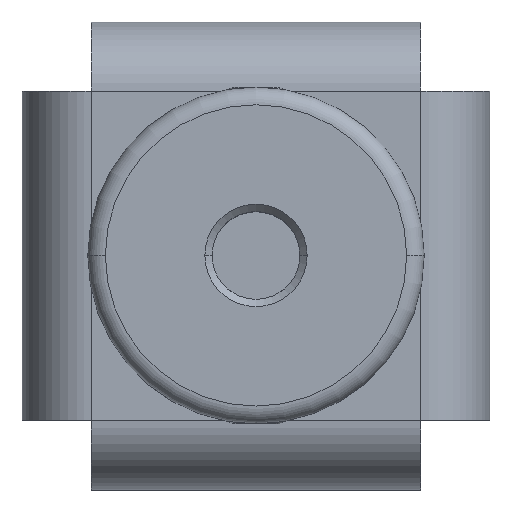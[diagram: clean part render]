
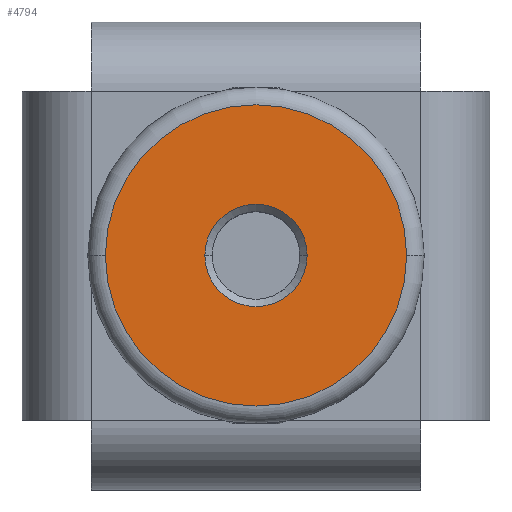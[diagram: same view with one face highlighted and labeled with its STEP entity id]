
A CAD part, top view. The second image highlights one B-rep face of the part: STEP entity #4794.
In plain terms, the highlighted planar face has unit normal (0, 0, 1).
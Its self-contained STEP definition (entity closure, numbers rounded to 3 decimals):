
#124 = AXIS2_PLACEMENT_3D ( 'NONE', #352, #349, #346 ) ;
#125 = AXIS2_PLACEMENT_3D ( 'NONE', #343, #341, #340 ) ;
#169 = AXIS2_PLACEMENT_3D ( 'NONE', #1106, #1107, #1108 ) ;
#187 = AXIS2_PLACEMENT_3D ( 'NONE', #1231, #1232, #1233 ) ;
#236 = AXIS2_PLACEMENT_3D ( 'NONE', #1405, #1410, #1411 ) ;
#340 = DIRECTION ( 'NONE',  ( 1., 0., 0. ) ) ;
#341 = DIRECTION ( 'NONE',  ( 0., 0., -1. ) ) ;
#343 = CARTESIAN_POINT ( 'NONE',  ( 0., 0., 17.5 ) ) ;
#346 = DIRECTION ( 'NONE',  ( -1., 0., 0. ) ) ;
#349 = DIRECTION ( 'NONE',  ( 0., 0., -1. ) ) ;
#352 = CARTESIAN_POINT ( 'NONE',  ( 0., 0., 17.5 ) ) ;
#875 = CARTESIAN_POINT ( 'NONE',  ( 10.3, 0., 17.5 ) ) ;
#1106 = CARTESIAN_POINT ( 'NONE',  ( 0., 0., 17.5 ) ) ;
#1107 = DIRECTION ( 'NONE',  ( 0., 0., -1. ) ) ;
#1108 = DIRECTION ( 'NONE',  ( 1., 0., 0. ) ) ;
#1231 = CARTESIAN_POINT ( 'NONE',  ( 0., 0., 17.5 ) ) ;
#1232 = DIRECTION ( 'NONE',  ( 0., 0., -1. ) ) ;
#1233 = DIRECTION ( 'NONE',  ( -1., 0., 0. ) ) ;
#1404 = PLANE ( 'NONE',  #236 ) ;
#1405 = CARTESIAN_POINT ( 'NONE',  ( 0., 0., 17.5 ) ) ;
#1410 = DIRECTION ( 'NONE',  ( 0., 0., -1. ) ) ;
#1411 = DIRECTION ( 'NONE',  ( 1., 0., 0. ) ) ;
#2198 = EDGE_CURVE ( 'NONE', #2672, #2556, #3899, .T. ) ;
#2199 = EDGE_CURVE ( 'NONE', #2551, #2596, #3901, .T. ) ;
#2551 = VERTEX_POINT ( 'NONE', #2820 ) ;
#2556 = VERTEX_POINT ( 'NONE', #2814 ) ;
#2596 = VERTEX_POINT ( 'NONE', #875 ) ;
#2672 = VERTEX_POINT ( 'NONE', #3472 ) ;
#2814 = CARTESIAN_POINT ( 'NONE',  ( 3.5, 0., 17.5 ) ) ;
#2820 = CARTESIAN_POINT ( 'NONE',  ( -10.3, 0., 17.5 ) ) ;
#3295 = ORIENTED_EDGE ( 'NONE', *, *, #4711, .F. ) ;
#3328 = ORIENTED_EDGE ( 'NONE', *, *, #2198, .T. ) ;
#3333 = ORIENTED_EDGE ( 'NONE', *, *, #2199, .F. ) ;
#3351 = ORIENTED_EDGE ( 'NONE', *, *, #4738, .T. ) ;
#3472 = CARTESIAN_POINT ( 'NONE',  ( -3.5, 0., 17.5 ) ) ;
#3899 = CIRCLE ( 'NONE', #124, 3.5 ) ;
#3901 = CIRCLE ( 'NONE', #125, 10.3 ) ;
#4108 = CIRCLE ( 'NONE', #169, 10.3 ) ;
#4136 = CIRCLE ( 'NONE', #187, 3.5 ) ;
#4242 = FACE_BOUND ( 'NONE', #4538, .T. ) ;
#4245 = FACE_OUTER_BOUND ( 'NONE', #4596, .T. ) ;
#4538 = EDGE_LOOP ( 'NONE', ( #3351, #3328 ) ) ;
#4596 = EDGE_LOOP ( 'NONE', ( #3295, #3333 ) ) ;
#4711 = EDGE_CURVE ( 'NONE', #2596, #2551, #4108, .T. ) ;
#4738 = EDGE_CURVE ( 'NONE', #2556, #2672, #4136, .T. ) ;
#4794 = ADVANCED_FACE ( 'NONE', ( #4242, #4245 ), #1404, .F. ) ;
